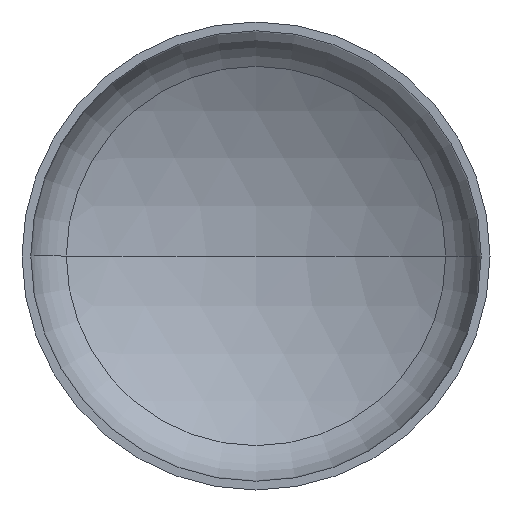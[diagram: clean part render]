
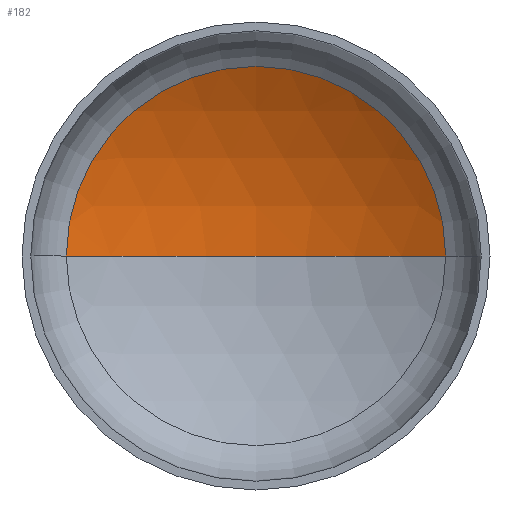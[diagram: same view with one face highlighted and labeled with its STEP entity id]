
A CAD part, front view. The second image highlights one B-rep face of the part: STEP entity #182.
In plain terms, the highlighted spherical face has radius 2080 mm.
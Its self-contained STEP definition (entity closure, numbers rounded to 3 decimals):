
#8 = ORIENTED_EDGE ( 'NONE', *, *, #139, .T. ) ;
#15 = EDGE_LOOP ( 'NONE', ( #28, #61, #8 ) ) ;
#16 = AXIS2_PLACEMENT_3D ( 'NONE', #359, #329, #197 ) ;
#17 = DIRECTION ( 'NONE',  ( 0., -1., 0. ) ) ;
#18 = VERTEX_POINT ( 'NONE', #255 ) ;
#22 = CARTESIAN_POINT ( 'NONE',  ( 0., 494.885, 0. ) ) ;
#28 = ORIENTED_EDGE ( 'NONE', *, *, #350, .F. ) ;
#30 = VERTEX_POINT ( 'NONE', #280 ) ;
#43 = AXIS2_PLACEMENT_3D ( 'NONE', #219, #310, #218 ) ;
#47 = VERTEX_POINT ( 'NONE', #278 ) ;
#51 = AXIS2_PLACEMENT_3D ( 'NONE', #69, #287, #193 ) ;
#57 = AXIS2_PLACEMENT_3D ( 'NONE', #22, #17, #357 ) ;
#61 = ORIENTED_EDGE ( 'NONE', *, *, #149, .T. ) ;
#69 = CARTESIAN_POINT ( 'NONE',  ( 0., -1298.516, 0. ) ) ;
#125 = SPHERICAL_SURFACE ( 'NONE', #43, 2080. ) ;
#139 = EDGE_CURVE ( 'NONE', #47, #18, #217, .T. ) ;
#145 = FACE_OUTER_BOUND ( 'NONE', #15, .T. ) ;
#149 = EDGE_CURVE ( 'NONE', #30, #47, #384, .T. ) ;
#182 = ADVANCED_FACE ( 'NONE', ( #145 ), #125, .F. ) ;
#193 = DIRECTION ( 'NONE',  ( -1., 0., 0. ) ) ;
#197 = DIRECTION ( 'NONE',  ( 1., 0., 0. ) ) ;
#217 = CIRCLE ( 'NONE', #57, 1053.619 ) ;
#218 = DIRECTION ( 'NONE',  ( -1., 0., 0. ) ) ;
#219 = CARTESIAN_POINT ( 'NONE',  ( 0., -1298.516, 0. ) ) ;
#255 = CARTESIAN_POINT ( 'NONE',  ( -1053.619, 494.885, 0. ) ) ;
#278 = CARTESIAN_POINT ( 'NONE',  ( 1053.619, 494.885, 0. ) ) ;
#280 = CARTESIAN_POINT ( 'NONE',  ( 0., 781.484, 0. ) ) ;
#287 = DIRECTION ( 'NONE',  ( 0., 0., -1. ) ) ;
#310 = DIRECTION ( 'NONE',  ( 0., 0., -1. ) ) ;
#329 = DIRECTION ( 'NONE',  ( 0., 0., 1. ) ) ;
#350 = EDGE_CURVE ( 'NONE', #30, #18, #358, .T. ) ;
#357 = DIRECTION ( 'NONE',  ( 1., 0., 0. ) ) ;
#358 = CIRCLE ( 'NONE', #16, 2080. ) ;
#359 = CARTESIAN_POINT ( 'NONE',  ( 0., -1298.516, 0. ) ) ;
#384 = CIRCLE ( 'NONE', #51, 2080. ) ;
